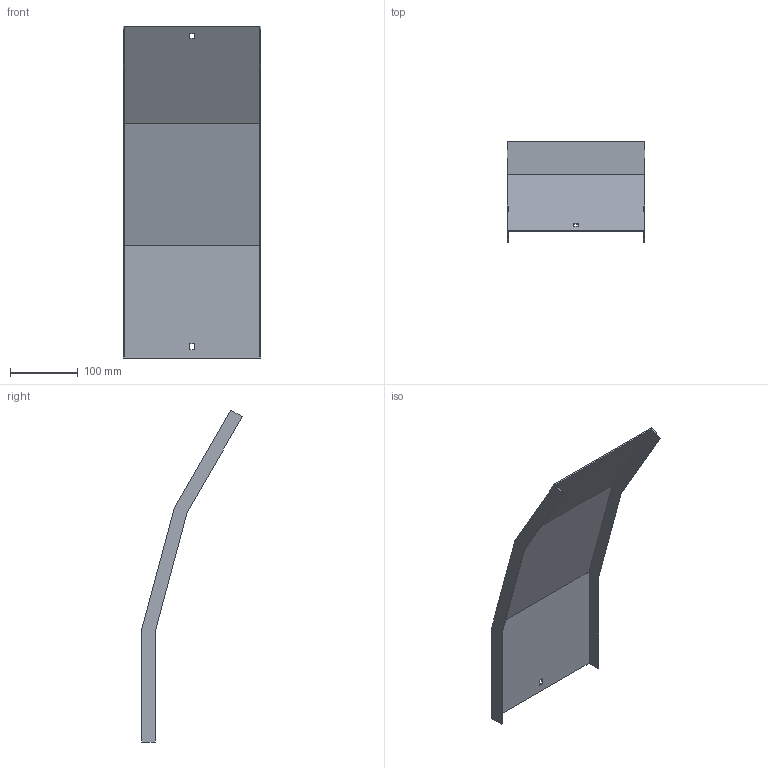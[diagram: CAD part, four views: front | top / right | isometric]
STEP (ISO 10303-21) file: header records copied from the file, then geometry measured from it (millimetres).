
FILE_DESCRIPTION (( 'STEP AP214' ), '1' );
FILE_NAME ('A2_35N3D200.step', '2025-02-21T10:30:40', ( '' ), ( '' ), 'SwSTEP 2.0', 'SolidWorks 2023', '' );
FILE_SCHEMA (( 'AUTOMOTIVE_DESIGN' ));
Length unit declared in the file: millimetre
Products named in the file (1): A2_35N3D200
Bounding box: 203 x 148.61 x 489.96 mm (x, y, z)
Volume: 186061.6 mm3; surface area: 250420.4 mm2
Topology: 1 solids, 1 shells, 26 faces, 72 edges, 48 vertices
Faces by surface type: plane 26
Entity records: 847 total; most frequent: CARTESIAN_POINT 147, ORIENTED_EDGE 144, DIRECTION 126, VECTOR 72, EDGE_CURVE 72, LINE 72, VERTEX_POINT 48, EDGE_LOOP 30
